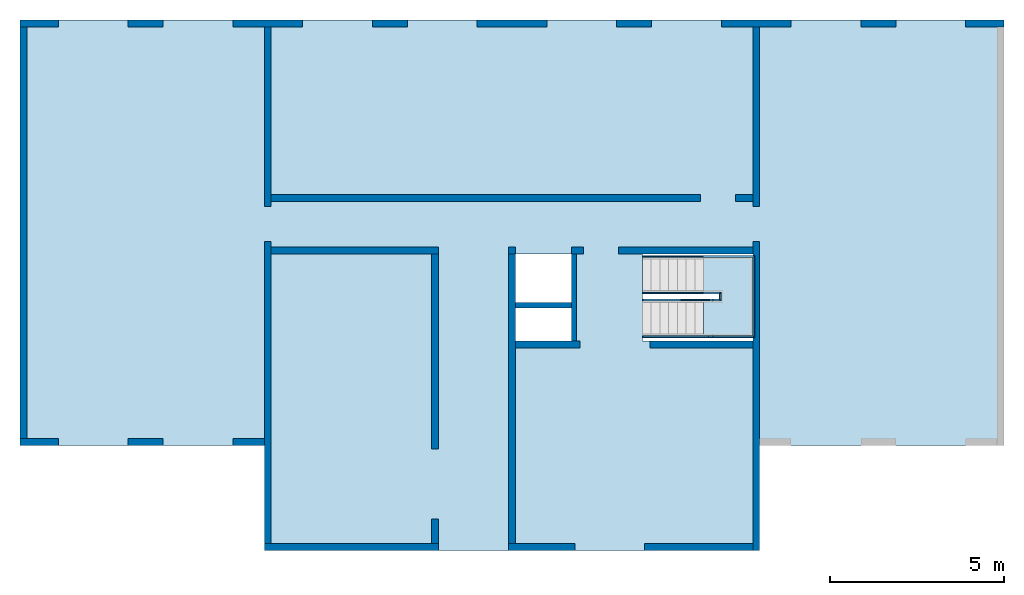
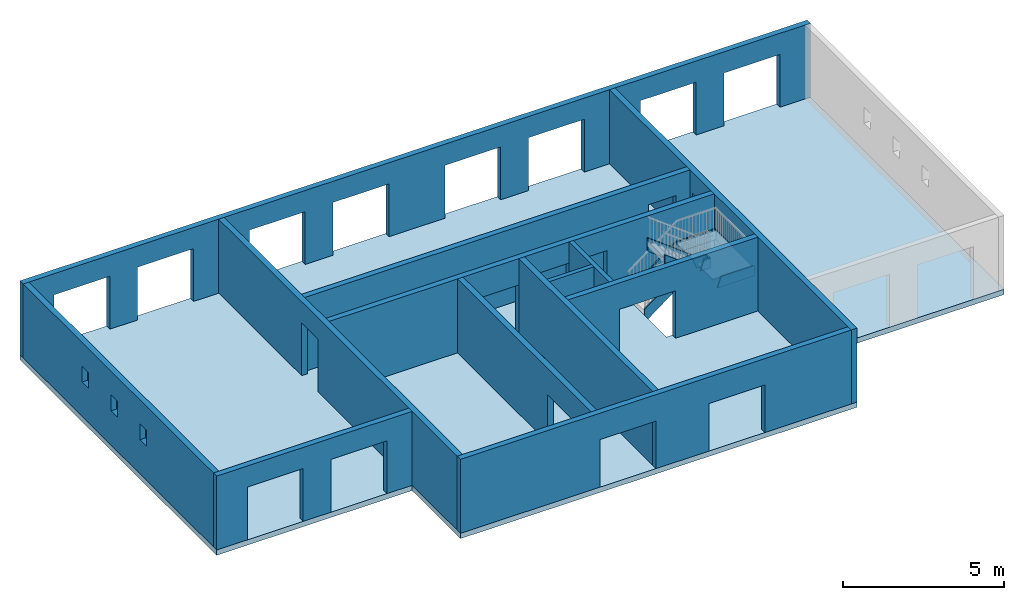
# One storey, part 1 of 3: 13 walls, 10 members, 2 slabs, 26 openings, 1 element without a shape of its own.
"""IFC2X3 building model written with IfcOpenShell, lengths in metres."""

from ifc_helpers import new_model, entity, si_unit, converted_unit, derived_unit, direction, frame, frame_2d, origin, origin_2d_with_axis, place, context, subcontext, project, spatial, polyline, rectangle, outline, extrude, faceted_brep, material, layer, layer_set, layer_usage, type_object, element, aggregate, save


model = new_model("IFC2X3")

# Units and contexts
model_context = context("Model", 3, precision=1e-05, world=origin(), true_north=direction((6.12303176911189e-17, 1.0)))
body_context = subcontext(model_context, "Body", "Model", "MODEL_VIEW")
ifc_project = project(units=[si_unit("LENGTHUNIT", "METRE"), si_unit("AREAUNIT", "SQUARE_METRE"), si_unit("VOLUMEUNIT", "CUBIC_METRE"), converted_unit("PLANEANGLEUNIT", "DEGREE", entity("IfcRatioMeasure", 0.0174532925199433), si_unit("PLANEANGLEUNIT", "RADIAN"), dimensions=[0, 0, 0, 0, 0, 0, 0]), si_unit("MASSUNIT", "GRAM", prefix="KILO"), derived_unit("MASSDENSITYUNIT", [(si_unit("MASSUNIT", "GRAM", prefix="KILO"), 1), (si_unit("LENGTHUNIT", "METRE"), -3)]), si_unit("TIMEUNIT", "SECOND"), si_unit("FREQUENCYUNIT", "HERTZ"), si_unit("THERMODYNAMICTEMPERATUREUNIT", "DEGREE_CELSIUS"), derived_unit("THERMALTRANSMITTANCEUNIT", [(si_unit("MASSUNIT", "GRAM", prefix="KILO"), 1), (si_unit("THERMODYNAMICTEMPERATUREUNIT", "KELVIN"), -1), (si_unit("TIMEUNIT", "SECOND"), -3)]), derived_unit("VOLUMETRICFLOWRATEUNIT", [(si_unit("LENGTHUNIT", "METRE"), 3), (si_unit("TIMEUNIT", "SECOND"), -1)]), si_unit("ELECTRICCURRENTUNIT", "AMPERE"), si_unit("ELECTRICVOLTAGEUNIT", "VOLT"), si_unit("POWERUNIT", "WATT"), si_unit("FORCEUNIT", "NEWTON"), si_unit("ILLUMINANCEUNIT", "LUX"), si_unit("LUMINOUSFLUXUNIT", "LUMEN"), si_unit("LUMINOUSINTENSITYUNIT", "CANDELA"), derived_unit("USERDEFINED", [(si_unit("MASSUNIT", "GRAM", prefix="KILO"), -1), (si_unit("LENGTHUNIT", "METRE"), -2), (si_unit("TIMEUNIT", "SECOND"), 3), (si_unit("LUMINOUSFLUXUNIT", "LUMEN"), 1)]), derived_unit("LINEARVELOCITYUNIT", [(si_unit("LENGTHUNIT", "METRE"), 1), (si_unit("TIMEUNIT", "SECOND"), -1)]), si_unit("PRESSUREUNIT", "PASCAL"), derived_unit("USERDEFINED", [(si_unit("LENGTHUNIT", "METRE"), -2), (si_unit("MASSUNIT", "GRAM", prefix="KILO"), 1), (si_unit("TIMEUNIT", "SECOND"), -2)])], contexts=[model_context])

# Site, building, storey
site_placement = place(None, origin())
site = spatial("IfcSite", under=ifc_project, at=site_placement, Name="Default", CompositionType="ELEMENT")
building_placement = place(site_placement, origin())
building = spatial("IfcBuilding", under=site, at=building_placement, CompositionType="ELEMENT")
storey_placement = place(building_placement, origin())
storey = spatial("IfcBuildingStorey", under=building, at=storey_placement, Name="Rez de Chaussée", CompositionType="ELEMENT", Elevation=0.0)

# Stair, members
stair_placement = place(storey_placement, origin())
stair = element("IfcStair", 1, at=stair_placement, inside=storey, Name="Escalier assemblé:Escalier", ObjectType="Escalier assemblé:Contremarche 190 mm max marche 250\xa0mm", ShapeType="NOTDEFINED")
member_type = type_object("IfcMemberType", Name="Limon à la française:Limon à la française - 50 mm de largeur", PredefinedType="STRINGER")
member_1_placement = place(stair_placement, origin())
member_1 = element("IfcMember", 2, at=member_1_placement, type_object=member_type, Name="Escalier assemblé:Escalier:467169 Stringer 1", ObjectType="Escalier assemblé:Contremarche 190 mm max marche 250\xa0mm", context=body_context, shape_type="SweptSolid", body=[
    extrude(outline(polyline([(-0.973212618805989, -0.2), (1.19067644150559, -0.2), (1.0569252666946, 0.199999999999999), (-1.27438908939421, 0.2), (-0.973212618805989, -0.2)])), frame((6.43043564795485, 2.2618101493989, 0.85311287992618), z_axis=(0.0, 1.0, 0.0), x_axis=(0.798870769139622, 0.0, 0.601502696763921)), (0.0, 0.0, 1.0), 0.05),
])
member_2_placement = place(stair_placement, origin())
member_2 = element("IfcMember", 3, at=member_2_placement, type_object=member_type, Name="Escalier assemblé:Escalier:467169 Stringer 2", ObjectType="Escalier assemblé:Contremarche 190 mm max marche 250\xa0mm", context=body_context, shape_type="SweptSolid", body=[
    extrude(outline(polyline([(-0.973212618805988, -0.2), (1.19067644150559, -0.2), (1.0569252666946, 0.2), (-1.27438908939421, 0.2), (-0.973212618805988, -0.2)])), frame((6.43043564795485, 1.2118101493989, 0.853112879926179), z_axis=(0.0, 1.0, 0.0), x_axis=(0.798870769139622, 0.0, 0.601502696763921)), (0.0, 0.0, 1.0), 0.0500000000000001),
])
member_3_placement = place(stair_placement, origin())
member_3 = element("IfcMember", 4, at=member_3_placement, type_object=member_type, Name="Escalier assemblé:Escalier:467169 Stringer 3", ObjectType="Escalier assemblé:Contremarche 190 mm max marche 250\xa0mm", context=body_context, shape_type="SweptSolid", body=[
    extrude(outline(polyline([(-1.2901377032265, -0.2), (1.0726738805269, -0.2), (1.37385035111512, 0.200000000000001), (-1.15638652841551, 0.2), (-1.2901377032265, -0.2)])), frame((6.50989234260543, -0.0381898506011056, 2.26487758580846), z_axis=(0.0, 1.0, 0.0), x_axis=(-0.798870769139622, 0.0, 0.601502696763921)), (0.0, 0.0, 1.0), 0.05),
])
member_4_placement = place(stair_placement, origin())
member_4 = element("IfcMember", 5, at=member_4_placement, type_object=member_type, Name="Escalier assemblé:Escalier:467169 Stringer 4", ObjectType="Escalier assemblé:Contremarche 190 mm max marche 250\xa0mm", context=body_context, shape_type="SweptSolid", body=[
    extrude(outline(polyline([(-1.2901377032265, -0.2), (1.0726738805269, -0.2), (1.37385035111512, 0.2), (-1.15638652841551, 0.2), (-1.2901377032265, -0.2)])), frame((6.50989234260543, 1.01181014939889, 2.26487758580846), z_axis=(0.0, 1.0, 0.0), x_axis=(-0.798870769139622, 0.0, 0.60150269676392)), (0.0, 0.0, 1.0), 0.05),
])
member_5_placement = place(stair_placement, frame((7.42024510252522, -0.0381898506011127, 1.32908212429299)))
member_5 = element("IfcMember", 6, at=member_5_placement, type_object=member_type, Name="Escalier assemblé:Escalier:467169 Stringer 5", ObjectType="Escalier assemblé:Contremarche 190 mm max marche 250\xa0mm", context=body_context, shape_type="Brep", body=[
    faceted_brep([(0.133751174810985, 0.0500000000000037, 0.4), (0.133751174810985, 0.0, 0.4), (1.32241889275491, 0.0, 0.4), (1.27241889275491, 0.0500000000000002, 0.4), (0.0, 0.0500000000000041, 0.0), (1.27241889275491, 0.0500000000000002, 0.0), (0.0, 0.0, 0.0), (1.32241889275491, 0.0, 0.0)], [[[0, 1, 2, 3]], [[4, 0, 3, 5]], [[6, 4, 5, 7]], [[1, 6, 7, 2]], [[1, 0, 4, 6]], [[2, 7, 5, 3]]]),
])
member_6_placement = place(stair_placement, origin())
member_6 = element("IfcMember", 7, at=member_6_placement, type_object=member_type, Name="Escalier assemblé:Escalier:467169 Stringer 6", ObjectType="Escalier assemblé:Contremarche 190 mm max marche 250\xa0mm", context=body_context, shape_type="SweptSolid", body=[
    extrude(outline(polyline([(-1.17500000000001, -0.0249999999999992), (1.17500000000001, -0.0249999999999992), (1.125, 0.0250000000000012), (-1.125, 0.0250000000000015), (-1.17500000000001, -0.0249999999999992)])), frame((8.71766399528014, 1.13681014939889, 1.32908212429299), z_axis=(0.0, 0.0, 1.0), x_axis=(0.0, 1.0, 0.0)), (0.0, 0.0, 1.0), 0.4),
])
member_7_placement = place(stair_placement, frame((7.26133171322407, 2.2618101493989, 1.32908212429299)))
member_7 = element("IfcMember", 8, at=member_7_placement, type_object=member_type, Name="Escalier assemblé:Escalier:467169 Stringer 7", ObjectType="Escalier assemblé:Contremarche 190 mm max marche 250\xa0mm", context=body_context, shape_type="Brep", body=[
    faceted_brep([(1.43133228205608, 0.0, 0.4), (1.48133228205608, 0.0499999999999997, 0.4), (0.0, 0.0500000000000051, 0.4), (0.0, 0.0, 0.4), (1.43133228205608, 0.0, 0.0), (0.133751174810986, 0.0, 0.0), (1.48133228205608, 0.0499999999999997, 0.0), (0.133751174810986, 0.0500000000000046, 0.0)], [[[0, 1, 2, 3]], [[4, 0, 3, 5]], [[6, 4, 5, 7]], [[1, 6, 7, 2]], [[1, 0, 4, 6]], [[2, 7, 5, 3]]]),
])
member_8_placement = place(stair_placement, frame((7.26133171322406, 1.2118101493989, 1.32908212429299)))
member_8 = element("IfcMember", 9, at=member_8_placement, type_object=member_type, Name="Escalier assemblé:Escalier:467169 Stringer 8", ObjectType="Escalier assemblé:Contremarche 190 mm max marche 250\xa0mm", context=body_context, shape_type="Brep", body=[
    faceted_brep([(0.0, 0.0500000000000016, 0.4), (0.0, 0.0, 0.4), (0.471332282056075, 0.0, 0.4), (0.521332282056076, 0.0499999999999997, 0.4), (0.133751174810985, 0.0500000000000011, 0.0), (0.521332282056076, 0.0499999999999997, 0.0), (0.133751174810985, 0.0, 0.0), (0.471332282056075, 0.0, 0.0)], [[[0, 1, 2, 3]], [[4, 0, 3, 5]], [[6, 4, 5, 7]], [[1, 6, 7, 2]], [[1, 0, 4, 6]], [[2, 7, 5, 3]]]),
])
member_9_placement = place(stair_placement, origin())
member_9 = element("IfcMember", 10, at=member_9_placement, type_object=member_type, Name="Escalier assemblé:Escalier:467169 Stringer 9", ObjectType="Escalier assemblé:Contremarche 190 mm max marche 250\xa0mm", context=body_context, shape_type="SweptSolid", body=[
    extrude(outline(polyline([(-0.0750000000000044, -0.0250000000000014), (0.0750000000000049, -0.0250000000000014), (0.125000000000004, 0.0249999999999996), (-0.125000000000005, 0.0249999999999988), (-0.0750000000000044, -0.0250000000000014)])), frame((7.75766399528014, 1.13681014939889, 1.32908212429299), z_axis=(0.0, 0.0, 1.0), x_axis=(0.0, -1.0, 0.0)), (0.0, 0.0, 1.0), 0.4),
])
member_10_placement = place(stair_placement, frame((7.42024510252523, 1.01181014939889, 1.32908212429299)))
member_10 = element("IfcMember", 11, at=member_10_placement, type_object=member_type, Name="Escalier assemblé:Escalier:467169 Stringer 10", ObjectType="Escalier assemblé:Contremarche 190 mm max marche 250\xa0mm", context=body_context, shape_type="Brep", body=[
    faceted_brep([(0.362418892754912, 0.0, 0.4), (0.312418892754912, 0.0500000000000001, 0.4), (0.133751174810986, 0.0500000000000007, 0.4), (0.133751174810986, 0.0, 0.4), (0.362418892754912, 0.0, 0.0), (0.0, 0.0, 0.0), (0.312418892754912, 0.0500000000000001, 0.0), (0.0, 0.0500000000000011, 0.0)], [[[0, 1, 2, 3]], [[4, 0, 3, 5]], [[6, 4, 5, 7]], [[1, 6, 7, 2]], [[1, 0, 4, 6]], [[2, 7, 5, 3]]]),
])

# Slab, openings
ifc_material_1 = material(Name="Béton - Coulé sur place - Béton20")
ifc_layer_1 = layer(ifc_material_1, 0.2)
ifc_layer_set_1 = layer_set([ifc_layer_1], Name="Sol:Dalle pleine 200 mm")
ifc_layer_usage_1 = layer_usage(ifc_layer_set_1, "AXIS3", "POSITIVE", 0.0)
slab_1_placement = place(storey_placement, origin())
slab_1 = element("IfcSlab", 12, at=slab_1_placement, inside=storey, material=ifc_layer_usage_1, Name="Sol:Dalle pleine 200 mm", ObjectType="Sol:Dalle pleine 200 mm", PredefinedType="FLOOR", context=body_context, shape_type="SweptSolid", body=[
    extrude(outline(polyline([(-14.1, 7.59999999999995), (-14.1, -4.60000000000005), (-7.1, -4.60000000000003), (-7.09999999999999, -7.60000000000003), (7.10000000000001, -7.59999999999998), (7.10000000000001, -4.59999999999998), (14.1, -4.59999999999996), (14.1, 7.60000000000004), (-14.1, 7.59999999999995)])), frame((1.79266399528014, 1.46181014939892, 0.2), z_axis=(0.0, 0.0, -1.0), x_axis=(-1.0, 0.0, 0.0)), (0.0, 0.0, 1.0), 0.2),
])
opening_1_placement = place(slab_1_placement, frame((2.69266399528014, 1.66181014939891, 0.2)))
element("IfcOpeningElement", 13, at=opening_1_placement, cuts=slab_1, Name="Sol:Dalle pleine 200 mm:2", ObjectType="Opening", context=body_context, shape_type="SweptSolid", body=[
    extrude(rectangle(XDim=1.4, YDim=1.6, at=origin_2d_with_axis()), frame((0.0, 0.0, 0.0), z_axis=(0.0, 0.0, -1.0), x_axis=(0.0, -1.0, 0.0)), (0.0, 0.0, 1.0), 0.2),
])
opening_2_placement = place(slab_1_placement, frame((2.69266399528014, 0.336810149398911, 0.2)))
element("IfcOpeningElement", 14, at=opening_2_placement, cuts=slab_1, Name="Sol:Dalle pleine 200 mm:3", ObjectType="Opening", context=body_context, shape_type="SweptSolid", body=[
    extrude(rectangle(XDim=0.95, YDim=1.6, at=origin_2d_with_axis()), frame((0.0, 0.0, 0.0), z_axis=(0.0, 0.0, -1.0), x_axis=(0.0, -1.0, 0.0)), (0.0, 0.0, 1.0), 0.2),
])
opening_3_placement = place(slab_1_placement, frame((7.11266399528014, 1.1118101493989, 0.2)))
element("IfcOpeningElement", 15, at=opening_3_placement, cuts=slab_1, Name="Sol:Dalle pleine 200 mm:4", ObjectType="Opening", context=body_context, shape_type="SweptSolid", body=[
    extrude(rectangle(XDim=3.16, YDim=2.49999999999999, at=origin_2d_with_axis()), frame((0.0, 0.0, 0.0), z_axis=(0.0, 0.0, -1.0), x_axis=(1.0, 0.0, 0.0)), (0.0, 0.0, 1.0), 0.2),
])

# Slab
slab_2_placement = place(stair_placement, origin())
slab_2 = element("IfcSlab", 16, at=slab_2_placement, Name="Escalier assemblé:Escalier:467169 Landing 1", ObjectType="Escalier assemblé:Contremarche 190 mm max marche 250\xa0mm", PredefinedType="LANDING", context=body_context, shape_type="SweptSolid", body=[
    extrude(outline(polyline([(-1.125, -0.477500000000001), (-0.125000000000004, -0.477500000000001), (-0.125000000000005, 0.0225000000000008), (0.125000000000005, 0.0225000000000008), (0.125000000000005, -0.477499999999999), (1.12500000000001, -0.477499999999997), (1.125, 0.932500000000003), (-1.12500000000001, 0.932500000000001), (-1.125, -0.477500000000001)])), frame((7.76016399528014, 1.1368101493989, 1.63235294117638), z_axis=(0.0, 0.0, 1.0), x_axis=(0.0, -1.0, 0.0)), (0.0, 0.0, 1.0), 0.05),
])

aggregate(stair, [slab_2, member_1, member_2, member_3, member_4, member_5, member_6, member_7, member_8, member_9, member_10])

# Wall, openings
ifc_layer_2 = layer(ifc_material_1, 0.2)
ifc_layer_set_2 = layer_set([ifc_layer_2], Name="Mur de base:Générique - 200 mm")
ifc_layer_usage_2 = layer_usage(ifc_layer_set_2, "AXIS2", "NEGATIVE", 0.1)
wall_type_1 = type_object("IfcWallType", Name="Mur de base:Générique - 200 mm", PredefinedType="STANDARD", material=ifc_layer_set_2)
wall_1_placement = place(storey_placement, frame((-12.3073360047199, 8.96181014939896, 0.2)))
wall_1 = element("IfcWallStandardCase", 17, at=wall_1_placement, inside=storey, type_object=wall_type_1, material=ifc_layer_usage_2, Name="Mur de base:Générique - 200 mm", ObjectType="Mur de base:Générique - 200 mm:1044", context=body_context, shape_type="SweptSolid", body=[
    extrude(rectangle(XDim=28.2, YDim=0.2, at=frame_2d((14.1, 3.19189119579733e-16), x_axis=(-1.0, 0.0))), origin(), (0.0, 0.0, 1.0), 2.80000000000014),
])
opening_4_placement = place(wall_1_placement, frame((12.3073360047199, -8.96181014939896, -0.2)))
element("IfcOpeningElement", 18, at=opening_4_placement, cuts=wall_1, Name="Mur de base:Générique - 200 mm", ObjectType="Opening", context=body_context, shape_type="SweptSolid", body=[
    extrude(rectangle(XDim=2.0, YDim=2.0, at=frame_2d((1.11022302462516e-16, 0.0), x_axis=(1.0, 0.0))), frame((13.7926639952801, 7.53781014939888, 1.2), z_axis=(0.0, 1.0, 0.0), x_axis=(0.0, 0.0, -1.0)), (0.0, 0.0, 1.0), 3.048),
])
opening_5_placement = place(wall_1_placement, frame((12.3073360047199, -8.96181014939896, -0.2)))
element("IfcOpeningElement", 19, at=opening_5_placement, cuts=wall_1, Name="Mur de base:Générique - 200 mm", ObjectType="Opening", context=body_context, shape_type="SweptSolid", body=[
    extrude(rectangle(XDim=2.0, YDim=2.0, at=frame_2d((0.0, 0.0), x_axis=(0.0, 1.0))), frame((10.7926639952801, 7.33781014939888, 1.2), z_axis=(0.0, 1.0, 0.0), x_axis=(1.0, 0.0, 0.0)), (0.0, 0.0, 1.0), 3.048),
])
opening_6_placement = place(wall_1_placement, frame((12.3073360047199, -8.96181014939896, -0.2)))
element("IfcOpeningElement", 20, at=opening_6_placement, cuts=wall_1, Name="Mur de base:Générique - 200 mm", ObjectType="Opening", context=body_context, shape_type="SweptSolid", body=[
    extrude(rectangle(XDim=2.0, YDim=2.0, at=frame_2d((1.11022302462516e-16, 0.0), x_axis=(1.0, 0.0))), frame((-10.2073360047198, 7.53781014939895, 1.2), z_axis=(0.0, 1.0, 0.0), x_axis=(0.0, 0.0, -1.0)), (0.0, 0.0, 1.0), 3.048),
])
opening_7_placement = place(wall_1_placement, frame((12.3073360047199, -8.96181014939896, -0.2)))
element("IfcOpeningElement", 21, at=opening_7_placement, cuts=wall_1, Name="Mur de base:Générique - 200 mm", ObjectType="Opening", context=body_context, shape_type="SweptSolid", body=[
    extrude(rectangle(XDim=2.0, YDim=2.0, at=frame_2d((1.11022302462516e-16, 0.0), x_axis=(1.0, 0.0))), frame((-7.20733600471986, 7.53781014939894, 1.2), z_axis=(0.0, 1.0, 0.0), x_axis=(0.0, 0.0, -1.0)), (0.0, 0.0, 1.0), 3.048),
])
opening_8_placement = place(wall_1_placement, frame((12.3073360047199, -8.96181014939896, -0.2)))
element("IfcOpeningElement", 22, at=opening_8_placement, cuts=wall_1, Name="Mur de base:Générique - 200 mm", ObjectType="Opening", context=body_context, shape_type="SweptSolid", body=[
    extrude(rectangle(XDim=2.0, YDim=2.0, at=frame_2d((1.66533453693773e-16, 2.22044604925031e-16), x_axis=(1.0, 0.0))), frame((-3.20733600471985, 7.53781014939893, 1.2), z_axis=(0.0, 1.0, 0.0), x_axis=(0.0, 0.0, -1.0)), (0.0, 0.0, 1.0), 3.048),
])
opening_9_placement = place(wall_1_placement, frame((12.3073360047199, -8.96181014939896, -0.2)))
element("IfcOpeningElement", 23, at=opening_9_placement, cuts=wall_1, Name="Mur de base:Générique - 200 mm", ObjectType="Opening", context=body_context, shape_type="SweptSolid", body=[
    extrude(rectangle(XDim=2.0, YDim=2.0, at=frame_2d((-4.9960036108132e-16, 0.0), x_axis=(0.0, 1.0))), frame((6.79266399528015, 7.3378101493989, 1.2), z_axis=(0.0, 1.0, 0.0), x_axis=(1.0, 0.0, 0.0)), (0.0, 0.0, 1.0), 3.048),
])
opening_10_placement = place(wall_1_placement, frame((12.3073360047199, -8.96181014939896, -0.2)))
element("IfcOpeningElement", 24, at=opening_10_placement, cuts=wall_1, Name="Mur de base:Générique - 200 mm", ObjectType="Opening", context=body_context, shape_type="SweptSolid", body=[
    extrude(rectangle(XDim=2.0, YDim=2.0, at=frame_2d((-2.22044604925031e-16, 0.0), x_axis=(0.0, 1.0))), frame((3.79266399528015, 7.33781014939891, 1.2), z_axis=(0.0, 1.0, 0.0), x_axis=(1.0, 0.0, 0.0)), (0.0, 0.0, 1.0), 3.048),
])
opening_11_placement = place(wall_1_placement, frame((12.3073360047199, -8.96181014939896, -0.2)))
element("IfcOpeningElement", 25, at=opening_11_placement, cuts=wall_1, Name="Mur de base:Générique - 200 mm", ObjectType="Opening", context=body_context, shape_type="SweptSolid", body=[
    extrude(rectangle(XDim=2.0, YDim=2.0, at=frame_2d((0.0, 0.0), x_axis=(0.0, 1.0))), frame((-0.207336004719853, 7.33781014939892, 1.2), z_axis=(0.0, 1.0, 0.0), x_axis=(1.0, 0.0, 0.0)), (0.0, 0.0, 1.0), 3.048),
])

# Wall, opening
ifc_layer_usage_3 = layer_usage(ifc_layer_set_2, "AXIS2", "NEGATIVE", 0.1)
wall_2_placement = place(storey_placement, frame((8.79266399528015, 8.86181014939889, 0.2), z_axis=(0.0, 0.0, 1.0), x_axis=(0.0, -1.0, 0.0)))
wall_2 = element("IfcWallStandardCase", 26, at=wall_2_placement, inside=storey, type_object=wall_type_1, material=ifc_layer_usage_3, Name="Mur de base:Générique - 200 mm", ObjectType="Mur de base:Générique - 200 mm:1044", context=body_context, shape_type="SweptSolid", body=[
    extrude(rectangle(XDim=15.0, YDim=0.2, at=frame_2d((7.5, 0.0), x_axis=(-1.0, 0.0))), origin(), (0.0, 0.0, 1.0), 2.80000000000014),
])
opening_12_placement = place(wall_2_placement, frame((8.86181014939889, -8.79266399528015, -0.2), z_axis=(0.0, 0.0, 1.0), x_axis=(0.0, 1.0, 0.0)))
element("IfcOpeningElement", 27, at=opening_12_placement, cuts=wall_2, Name="Mur de base:Générique - 200 mm", ObjectType="Opening", context=body_context, shape_type="SweptSolid", body=[
    extrude(rectangle(XDim=2.0, YDim=1.0, at=frame_2d((-2.4980018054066e-16, 0.0), x_axis=(0.0, 1.0))), frame((7.16866399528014, 3.2118101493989, 1.2), z_axis=(1.0, 0.0, 0.0), x_axis=(0.0, -1.0, 0.0)), (0.0, 0.0, 1.0), 3.048),
])

# Wall, openings
ifc_layer_usage_4 = layer_usage(ifc_layer_set_2, "AXIS2", "NEGATIVE", 0.1)
wall_3_placement = place(storey_placement, frame((8.69266399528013, -6.03818985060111, 0.2), z_axis=(0.0, 0.0, 1.0), x_axis=(-1.0, 0.0, 0.0)))
wall_3 = element("IfcWallStandardCase", 28, at=wall_3_placement, inside=storey, type_object=wall_type_1, material=ifc_layer_usage_4, Name="Mur de base:Générique - 200 mm", ObjectType="Mur de base:Générique - 200 mm:1044", context=body_context, shape_type="SweptSolid", body=[
    extrude(rectangle(XDim=14.0, YDim=0.2, at=frame_2d((7.0, 0.0), x_axis=(-1.0, 0.0))), origin(), (0.0, 0.0, 1.0), 2.80000000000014),
])
opening_13_placement = place(wall_3_placement, frame((8.69266399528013, -6.03818985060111, -0.2), z_axis=(0.0, 0.0, 1.0), x_axis=(-1.0, 0.0, 0.0)))
element("IfcOpeningElement", 29, at=opening_13_placement, cuts=wall_3, Name="Mur de base:Générique - 200 mm", ObjectType="Opening", context=body_context, shape_type="SweptSolid", body=[
    extrude(rectangle(XDim=2.0, YDim=2.0, at=origin_2d_with_axis()), frame((0.692663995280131, -4.61418985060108, 1.0), z_axis=(0.0, -1.0, 0.0), x_axis=(0.0, 0.0, -1.0)), (0.0, 0.0, 1.0), 3.048),
])
opening_14_placement = place(wall_3_placement, frame((8.69266399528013, -6.03818985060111, -0.2), z_axis=(0.0, 0.0, 1.0), x_axis=(-1.0, 0.0, 0.0)))
element("IfcOpeningElement", 30, at=opening_14_placement, cuts=wall_3, Name="Mur de base:Générique - 200 mm", ObjectType="Opening", context=body_context, shape_type="SweptSolid", body=[
    extrude(rectangle(XDim=2.0, YDim=2.0, at=frame_2d((2.22044604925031e-16, 0.0), x_axis=(0.0, 1.0))), frame((4.59266399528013, -4.41418985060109, 1.0), z_axis=(0.0, -1.0, 0.0), x_axis=(-1.0, 0.0, 0.0)), (0.0, 0.0, 1.0), 3.048),
])

# Wall, opening
ifc_layer_usage_5 = layer_usage(ifc_layer_set_2, "AXIS2", "NEGATIVE", 0.1)
wall_4_placement = place(storey_placement, frame((-5.20733600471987, -5.93818985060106, 0.2), z_axis=(0.0, 0.0, 1.0), x_axis=(0.0, 1.0, 0.0)))
wall_4 = element("IfcWallStandardCase", 31, at=wall_4_placement, inside=storey, type_object=wall_type_1, material=ifc_layer_usage_5, Name="Mur de base:Générique - 200 mm", ObjectType="Mur de base:Générique - 200 mm:1044", context=body_context, shape_type="SweptSolid", body=[
    extrude(rectangle(XDim=14.8, YDim=0.2, at=frame_2d((7.4, -1.66533453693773e-16), x_axis=(-1.0, 0.0))), origin(), (0.0, 0.0, 1.0), 2.80000000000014),
])
opening_15_placement = place(wall_4_placement, frame((5.93818985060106, -5.20733600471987, -0.2), z_axis=(0.0, 0.0, 1.0), x_axis=(0.0, -1.0, 0.0)))
element("IfcOpeningElement", 32, at=opening_15_placement, cuts=wall_4, Name="Mur de base:Générique - 200 mm", ObjectType="Opening", context=body_context, shape_type="SweptSolid", body=[
    extrude(rectangle(XDim=2.0, YDim=1.0, at=frame_2d((1.11022302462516e-16, -2.4980018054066e-16), x_axis=(1.0, 0.0))), frame((-3.78333600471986, 3.21181014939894, 1.2), z_axis=(-1.0, 0.0, 0.0), x_axis=(0.0, 0.0, -1.0)), (0.0, 0.0, 1.0), 3.048),
])

# Wall, openings
ifc_layer_usage_6 = layer_usage(ifc_layer_set_2, "AXIS2", "NEGATIVE", 0.1)
wall_5_placement = place(storey_placement, frame((-5.30733600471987, -3.03818985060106, 0.2), z_axis=(0.0, 0.0, 1.0), x_axis=(-1.0, 0.0, 0.0)))
wall_5 = element("IfcWallStandardCase", 33, at=wall_5_placement, inside=storey, type_object=wall_type_1, material=ifc_layer_usage_6, Name="Mur de base:Générique - 200 mm", ObjectType="Mur de base:Générique - 200 mm:1044", context=body_context, shape_type="SweptSolid", body=[
    extrude(rectangle(XDim=7.0, YDim=0.2, at=frame_2d((3.5, 0.0), x_axis=(-1.0, 0.0))), origin(), (0.0, 0.0, 1.0), 2.80000000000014),
])
opening_16_placement = place(wall_5_placement, frame((-5.30733600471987, -3.03818985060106, -0.2), z_axis=(0.0, 0.0, 1.0), x_axis=(-1.0, 0.0, 0.0)))
element("IfcOpeningElement", 34, at=opening_16_placement, cuts=wall_5, Name="Mur de base:Générique - 200 mm", ObjectType="Opening", context=body_context, shape_type="SweptSolid", body=[
    extrude(rectangle(XDim=2.0, YDim=2.0, at=frame_2d((1.0547118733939e-15, 0.0), x_axis=(0.0, 1.0))), frame((-10.2073360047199, -1.41418985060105, 1.2), z_axis=(0.0, -1.0, 0.0), x_axis=(-1.0, 0.0, 0.0)), (0.0, 0.0, 1.0), 3.048),
])
opening_17_placement = place(wall_5_placement, frame((-5.30733600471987, -3.03818985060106, -0.2), z_axis=(0.0, 0.0, 1.0), x_axis=(-1.0, 0.0, 0.0)))
element("IfcOpeningElement", 35, at=opening_17_placement, cuts=wall_5, Name="Mur de base:Générique - 200 mm", ObjectType="Opening", context=body_context, shape_type="SweptSolid", body=[
    extrude(rectangle(XDim=2.0, YDim=2.0, at=frame_2d((-4.9960036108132e-16, 0.0), x_axis=(0.0, 1.0))), frame((-7.20733600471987, -1.41418985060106, 1.2), z_axis=(0.0, -1.0, 0.0), x_axis=(-1.0, 0.0, 0.0)), (0.0, 0.0, 1.0), 3.048),
])

ifc_layer_usage_7 = layer_usage(ifc_layer_set_2, "AXIS2", "NEGATIVE", 0.1)
wall_6_placement = place(storey_placement, frame((-12.2073360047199, -2.93818985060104, 0.2), z_axis=(0.0, 0.0, 1.0), x_axis=(0.0, 1.0, 0.0)))
wall_6 = element("IfcWallStandardCase", 36, at=wall_6_placement, inside=storey, type_object=wall_type_1, material=ifc_layer_usage_7, Name="Mur de base:Générique - 200 mm", ObjectType="Mur de base:Générique - 200 mm:1044", context=body_context, shape_type="SweptSolid", body=[
    extrude(rectangle(XDim=11.8, YDim=0.199999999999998, at=frame_2d((5.9, -1.59594559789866e-16), x_axis=(-1.0, 0.0))), origin(), (0.0, 0.0, 1.0), 2.80000000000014),
])
opening_18_placement = place(wall_6_placement, frame((2.93818985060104, -12.2073360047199, -0.2), z_axis=(0.0, 0.0, 1.0), x_axis=(0.0, -1.0, 0.0)))
element("IfcOpeningElement", 37, at=opening_18_placement, cuts=wall_6, Name="Mur de base:Générique - 200 mm", ObjectType="Opening", context=body_context, shape_type="SweptSolid", body=[
    extrude(rectangle(XDim=0.6, YDim=0.4, at=origin_2d_with_axis()), frame((-10.7833360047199, 3.21181014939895, 1.8), z_axis=(-1.0, 0.0, 0.0), x_axis=(0.0, 0.0, -1.0)), (0.0, 0.0, 1.0), 3.048),
])
opening_19_placement = place(wall_6_placement, frame((2.93818985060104, -12.2073360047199, -0.2), z_axis=(0.0, 0.0, 1.0), x_axis=(0.0, -1.0, 0.0)))
element("IfcOpeningElement", 38, at=opening_19_placement, cuts=wall_6, Name="Mur de base:Générique - 200 mm", ObjectType="Opening", context=body_context, shape_type="SweptSolid", body=[
    extrude(rectangle(XDim=0.6, YDim=0.400000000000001, at=frame_2d((0.0, 2.77555756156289e-16), x_axis=(1.0, 0.0))), frame((-10.7833360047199, 5.01181014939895, 1.8), z_axis=(-1.0, 0.0, 0.0), x_axis=(0.0, 0.0, -1.0)), (0.0, 0.0, 1.0), 3.048),
])
opening_20_placement = place(wall_6_placement, frame((2.93818985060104, -12.2073360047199, -0.2), z_axis=(0.0, 0.0, 1.0), x_axis=(0.0, -1.0, 0.0)))
element("IfcOpeningElement", 39, at=opening_20_placement, cuts=wall_6, Name="Mur de base:Générique - 200 mm", ObjectType="Opening", context=body_context, shape_type="SweptSolid", body=[
    extrude(rectangle(XDim=0.6, YDim=0.4, at=frame_2d((0.0, -6.93889390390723e-17), x_axis=(1.0, 0.0))), frame((-10.7833360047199, 1.41181014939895, 1.8), z_axis=(-1.0, 0.0, 0.0), x_axis=(0.0, 0.0, -1.0)), (0.0, 0.0, 1.0), 3.048),
])

# Wall, opening
ifc_layer_usage_8 = layer_usage(ifc_layer_set_2, "AXIS2", "NEGATIVE", 0.1)
wall_7_placement = place(storey_placement, frame((-5.10733600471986, 3.96181014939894, 0.2)))
wall_7 = element("IfcWallStandardCase", 40, at=wall_7_placement, inside=storey, type_object=wall_type_1, material=ifc_layer_usage_8, Name="Mur de base:Générique - 200 mm", ObjectType="Mur de base:Générique - 200 mm:1044", context=body_context, shape_type="SweptSolid", body=[
    extrude(rectangle(XDim=13.8, YDim=0.2, at=frame_2d((6.9, 2.22044604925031e-16), x_axis=(-1.0, 0.0))), origin(), (0.0, 0.0, 1.0), 2.80000000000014),
])
opening_21_placement = place(wall_7_placement, frame((5.10733600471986, -3.96181014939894, -0.2)))
element("IfcOpeningElement", 41, at=opening_21_placement, cuts=wall_7, Name="Mur de base:Générique - 200 mm", ObjectType="Opening", context=body_context, shape_type="SweptSolid", body=[
    extrude(rectangle(XDim=2.0, YDim=1.0, at=frame_2d((1.11022302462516e-16, 1.08246744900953e-15), x_axis=(1.0, 0.0))), frame((7.69266399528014, 2.5378101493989, 1.2), z_axis=(0.0, 1.0, 0.0), x_axis=(0.0, 0.0, -1.0)), (0.0, 0.0, 1.0), 3.048),
])

# Wall, openings
ifc_layer_usage_9 = layer_usage(ifc_layer_set_2, "AXIS2", "NEGATIVE", 0.1)
wall_8_placement = place(storey_placement, frame((8.69266399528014, 2.46181014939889, 0.2), z_axis=(0.0, 0.0, 1.0), x_axis=(-1.0, 0.0, 0.0)))
wall_8 = element("IfcWallStandardCase", 42, at=wall_8_placement, inside=storey, type_object=wall_type_1, material=ifc_layer_usage_9, Name="Mur de base:Générique - 200 mm", ObjectType="Mur de base:Générique - 200 mm:1044", context=body_context, shape_type="SweptSolid", body=[
    extrude(rectangle(XDim=13.8, YDim=0.2, at=frame_2d((6.9, 8.32667268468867e-17), x_axis=(-1.0, 0.0))), origin(), (0.0, 0.0, 1.0), 2.80000000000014),
])
opening_22_placement = place(wall_8_placement, frame((8.69266399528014, 2.46181014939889, -0.2), z_axis=(0.0, 0.0, 1.0), x_axis=(-1.0, 0.0, 0.0)))
element("IfcOpeningElement", 43, at=opening_22_placement, cuts=wall_8, Name="Mur de base:Générique - 200 mm", ObjectType="Opening", context=body_context, shape_type="SweptSolid", body=[
    extrude(rectangle(XDim=2.0, YDim=1.0, at=frame_2d((1.11022302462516e-16, 2.4980018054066e-16), x_axis=(1.0, 0.0))), frame((4.34266399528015, 3.88581014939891, 1.2), z_axis=(0.0, -1.0, 0.0), x_axis=(0.0, 0.0, -1.0)), (0.0, 0.0, 1.0), 3.048),
])
opening_23_placement = place(wall_8_placement, frame((8.69266399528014, 2.46181014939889, -0.2), z_axis=(0.0, 0.0, 1.0), x_axis=(-1.0, 0.0, 0.0)))
element("IfcOpeningElement", 44, at=opening_23_placement, cuts=wall_8, Name="Mur de base:Générique - 200 mm", ObjectType="Opening", context=body_context, shape_type="SweptSolid", body=[
    extrude(rectangle(XDim=2.0, YDim=1.6, at=frame_2d((1.66533453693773e-16, 1.11022302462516e-16), x_axis=(1.0, 0.0))), frame((2.69266399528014, 3.88581014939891, 1.2), z_axis=(0.0, -1.0, 0.0), x_axis=(0.0, 0.0, -1.0)), (0.0, 0.0, 1.0), 3.048),
])
opening_24_placement = place(wall_8_placement, frame((8.69266399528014, 2.46181014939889, -0.2), z_axis=(0.0, 0.0, 1.0), x_axis=(-1.0, 0.0, 0.0)))
element("IfcOpeningElement", 45, at=opening_24_placement, cuts=wall_8, Name="Mur de base:Générique - 200 mm", ObjectType="Opening", context=body_context, shape_type="SweptSolid", body=[
    extrude(rectangle(XDim=2.0, YDim=2.0, at=frame_2d((0.0, 0.0), x_axis=(0.0, 1.0))), frame((0.692663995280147, 4.08581014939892, 1.0), z_axis=(0.0, -1.0, 0.0), x_axis=(-1.0, 0.0, 0.0)), (0.0, 0.0, 1.0), 3.048),
])

# Wall
ifc_layer_usage_10 = layer_usage(ifc_layer_set_2, "AXIS2", "NEGATIVE", 0.1)
wall_9_placement = place(storey_placement, frame((1.79266399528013, -5.93818985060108, 0.2), z_axis=(0.0, 0.0, 1.0), x_axis=(0.0, 1.0, 0.0)))
element("IfcWallStandardCase", 46, at=wall_9_placement, inside=storey, type_object=wall_type_1, material=ifc_layer_usage_10, Name="Mur de base:Générique - 200 mm", ObjectType="Mur de base:Générique - 200 mm:1044", context=body_context, shape_type="SweptSolid", body=[
    extrude(rectangle(XDim=8.3, YDim=0.2, at=frame_2d((4.15, 1.11022302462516e-16), x_axis=(-1.0, 0.0))), origin(), (0.0, 0.0, 1.0), 2.80000000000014),
])

# Wall, opening
ifc_layer_usage_11 = layer_usage(ifc_layer_set_2, "AXIS2", "NEGATIVE", 0.1)
wall_10_placement = place(storey_placement, frame((1.89266399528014, -0.238189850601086, 0.2)))
wall_10 = element("IfcWallStandardCase", 47, at=wall_10_placement, inside=storey, type_object=wall_type_1, material=ifc_layer_usage_11, Name="Mur de base:Générique - 200 mm", ObjectType="Mur de base:Générique - 200 mm:1044", context=body_context, shape_type="SweptSolid", body=[
    extrude(rectangle(XDim=6.8, YDim=0.2, at=frame_2d((3.4, 2.08166817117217e-17), x_axis=(-1.0, 0.0))), origin(), (0.0, 0.0, 1.0), 2.80000000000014),
])
opening_25_placement = place(wall_10_placement, frame((-1.89266399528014, 0.238189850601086, -0.2)))
element("IfcOpeningElement", 48, at=opening_25_placement, cuts=wall_10, Name="Mur de base:Générique - 200 mm", ObjectType="Opening", context=body_context, shape_type="SweptSolid", body=[
    extrude(rectangle(XDim=2.0, YDim=2.0, at=frame_2d((0.0, -5.55111512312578e-16), x_axis=(1.0, 0.0))), frame((4.74266399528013, -1.6621898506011, 1.0), z_axis=(0.0, 1.0, 0.0), x_axis=(0.0, 0.0, -1.0)), (0.0, 0.0, 1.0), 3.048),
])

ifc_layer_usage_12 = layer_usage(ifc_layer_set_2, "AXIS2", "NEGATIVE", 0.1)
wall_11_placement = place(storey_placement, frame((-0.407336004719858, 2.36181014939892, 0.2), z_axis=(0.0, 0.0, 1.0), x_axis=(0.0, -1.0, 0.0)))
wall_11 = element("IfcWallStandardCase", 49, at=wall_11_placement, inside=storey, type_object=wall_type_1, material=ifc_layer_usage_12, Name="Mur de base:Générique - 200 mm", ObjectType="Mur de base:Générique - 200 mm:1044", context=body_context, shape_type="SweptSolid", body=[
    extrude(rectangle(XDim=8.3, YDim=0.2, at=frame_2d((4.15, -2.08166817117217e-17), x_axis=(-1.0, 0.0))), origin(), (0.0, 0.0, 1.0), 2.79999999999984),
])
opening_26_placement = place(wall_11_placement, frame((2.36181014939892, 0.407336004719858, -0.2), z_axis=(0.0, 0.0, 1.0), x_axis=(0.0, 1.0, 0.0)))
element("IfcOpeningElement", 50, at=opening_26_placement, cuts=wall_11, Name="Mur de base:Générique - 200 mm", ObjectType="Opening", context=body_context, shape_type="SweptSolid", body=[
    extrude(rectangle(XDim=2.0, YDim=2.0, at=frame_2d((0.0, 7.7715611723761e-16), x_axis=(1.0, 0.0))), frame((-1.83133600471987, -4.23818985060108, 1.0), z_axis=(1.0, 0.0, 0.0), x_axis=(0.0, 0.0, -1.0)), (0.0, 0.0, 1.0), 3.048),
])

# Walls
ifc_material_2 = material(Name="Blocs béton manufacturés")
ifc_layer_3 = layer(ifc_material_2, 0.15)
ifc_layer_set_3 = layer_set([ifc_layer_3], Name="Mur de base:Générique - 150 mm")
ifc_layer_usage_13 = layer_usage(ifc_layer_set_3, "AXIS2", "NEGATIVE", 0.075)
wall_type_2 = type_object("IfcWallType", Name="Mur de base:Générique - 150 mm", PredefinedType="STANDARD", material=ifc_layer_set_3)
wall_12_placement = place(storey_placement, frame((3.56766399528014, 2.36181014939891, 0.2), z_axis=(0.0, 0.0, 1.0), x_axis=(0.0, -1.0, 0.0)))
element("IfcWallStandardCase", 51, at=wall_12_placement, inside=storey, type_object=wall_type_2, material=ifc_layer_usage_13, Name="Mur de base:Générique - 150 mm", ObjectType="Mur de base:Générique - 150 mm", context=body_context, shape_type="SweptSolid", body=[
    extrude(rectangle(XDim=2.5, YDim=0.149999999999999, at=frame_2d((1.25, -1.59594559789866e-16), x_axis=(-1.0, 0.0))), origin(), (0.0, 0.0, 1.0), 2.80000000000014),
])
ifc_layer_usage_14 = layer_usage(ifc_layer_set_3, "AXIS2", "NEGATIVE", 0.075)
wall_13_placement = place(storey_placement, frame((1.89266399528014, 0.886810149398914, 0.0)))
element("IfcWallStandardCase", 52, at=wall_13_placement, inside=storey, type_object=wall_type_2, material=ifc_layer_usage_14, Name="Mur de base:Générique - 150 mm", ObjectType="Mur de base:Générique - 150 mm", context=body_context, shape_type="SweptSolid", body=[
    extrude(rectangle(XDim=1.6, YDim=0.15, at=frame_2d((0.8, -3.46944695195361e-17), x_axis=(-1.0, 0.0))), origin(), (0.0, 0.0, 1.0), 3.00000000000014),
])

save(model, "model.ifc")
